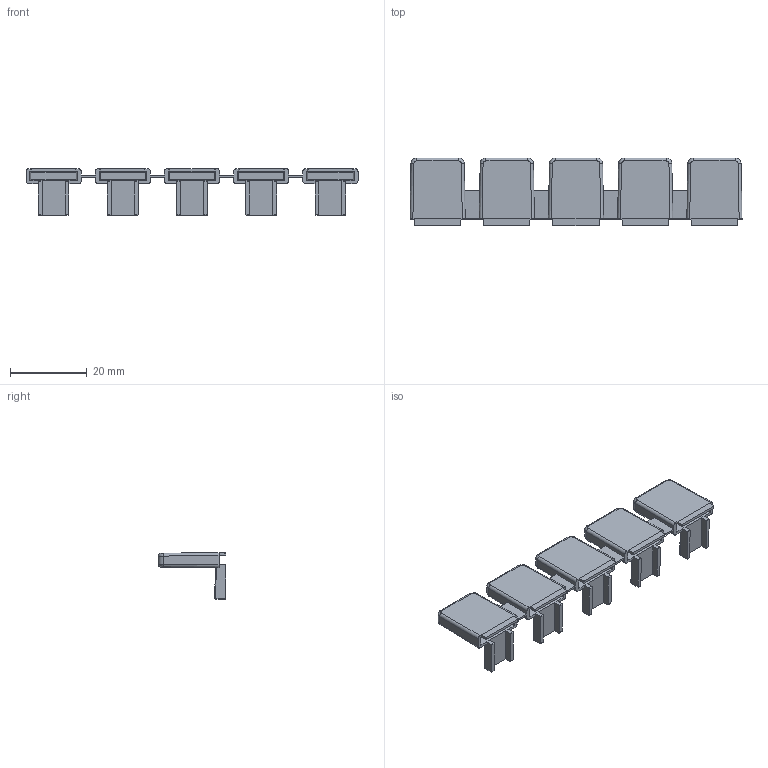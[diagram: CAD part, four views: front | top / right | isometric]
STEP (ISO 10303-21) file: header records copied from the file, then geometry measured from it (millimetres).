
FILE_DESCRIPTION (( 'STEP AP214' ), '1' );
FILE_NAME ('EKD-5.STEP', '2018-09-07T05:24:15', ( '' ), ( '' ), 'SwSTEP 2.0', 'SolidWorks 2015', '' );
FILE_SCHEMA (( 'AUTOMOTIVE_DESIGN' ));
Length unit declared in the file: millimetre
Products named in the file (1): EKD-5
Bounding box: 86.35 x 17.65 x 12.15 mm (x, y, z)
Volume: 2756 mm3; surface area: 6790.2 mm2
Topology: 1 solids, 1 shells, 273 faces, 713 edges, 432 vertices
Faces by surface type: plane 148, cylinder 95, bspline 20, sphere 10
Entity records: 11554 total; most frequent: CARTESIAN_POINT 2179, ORIENTED_EDGE 1386, DIRECTION 1261, EDGE_CURVE 693, LINE 493, VECTOR 493, VERTEX_POINT 422, AXIS2_PLACEMENT_3D 384
